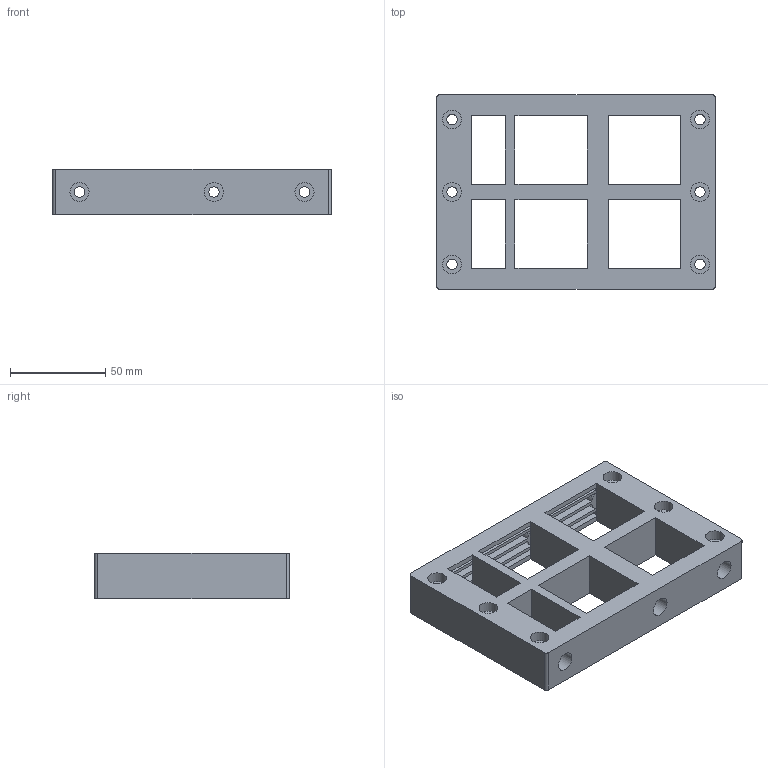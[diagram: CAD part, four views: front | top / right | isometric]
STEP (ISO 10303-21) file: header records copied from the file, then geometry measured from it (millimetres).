
FILE_DESCRIPTION( ('This file contains a STEP AP42 implementation' ,'as created by ZW3D STEP Interface translator.') ,'2;1' );
FILE_NAME( '98040402 KPL 48-18C.stp' ,'23 417.101515', (''), ('ZWCAD Software Co.'), 'Version 1.0', 'ZW3D to STEP translator', '' );
FILE_SCHEMA(('CONFIG_CONTROL_DESIGN'));
Length unit declared in the file: millimetre
Products named in the file (1): 0
Bounding box: 146 x 102 x 24 mm (x, y, z)
Volume: 157022.4 mm3; surface area: 69703.2 mm2
Topology: 1 solids, 1 shells, 175 faces, 482 edges, 321 vertices
Faces by surface type: plane 136, cylinder 39
Full cylindrical faces by diameter (mm): 5.5 x10, 9.8 x6, 10 x3
Entity records: 5623 total; most frequent: CARTESIAN_POINT 979, ORIENTED_EDGE 964, DIRECTION 925, EDGE_CURVE 482, VECTOR 391, LINE 391, VERTEX_POINT 321, AXIS2_PLACEMENT_3D 267
